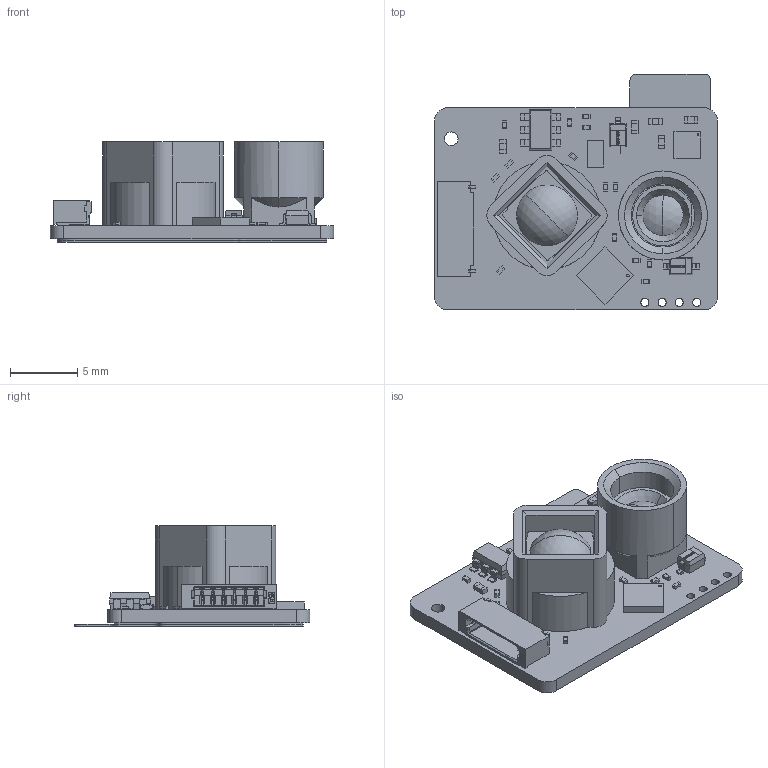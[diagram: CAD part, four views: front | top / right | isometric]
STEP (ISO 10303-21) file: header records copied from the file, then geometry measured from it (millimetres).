
FILE_DESCRIPTION (( 'STEP AP203' ), '1' );
FILE_NAME ('SP10-BD-XY-00 朏荂聆擒耀郪.STEP', '2025-03-06T02:37:48', ( '' ), ( '' ), 'SwSTEP 2.0', 'SolidWorks 2020', '' );
FILE_SCHEMA (( 'CONFIG_CONTROL_DESIGN' ));
Length unit declared in the file: millimetre
Products named in the file (1): SP10-BD-XY-00 朏荂聆擒耀郪
Bounding box: 21 x 17.5 x 7.43 mm (x, y, z)
Surface area: 1973.5 mm2 (no closed solid volume)
Topology: 0 solids, 47 shells, 659 faces, 3299 edges, 2646 vertices
Faces by surface type: plane 517, cylinder 122, cone 13, sphere 4, bspline 3
Entity records: 33076 total; most frequent: CARTESIAN_POINT 7911, ORIENTED_EDGE 4752, DIRECTION 4744, EDGE_CURVE 3299, VERTEX_POINT 2646, VECTOR 2418, LINE 2418, AXIS2_PLACEMENT_3D 1163
